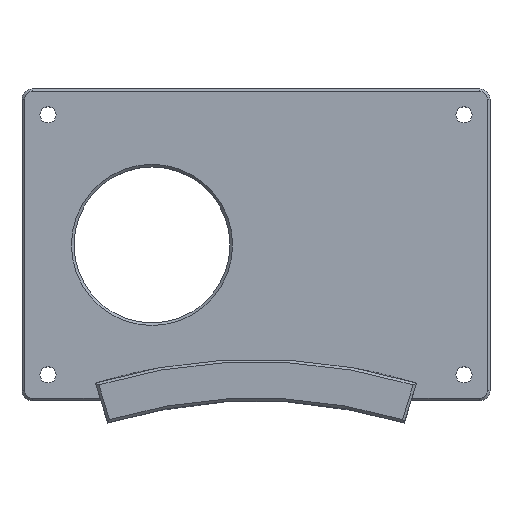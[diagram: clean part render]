
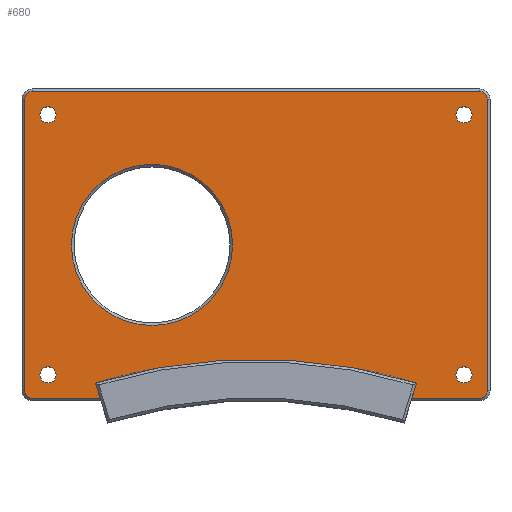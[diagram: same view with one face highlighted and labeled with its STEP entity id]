
A CAD part, top view. The second image highlights one B-rep face of the part: STEP entity #680.
In plain terms, the highlighted planar face has unit normal (0, 0, 1).
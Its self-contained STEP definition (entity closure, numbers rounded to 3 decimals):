
#44=VECTOR('',#1211,1.);
#45=VECTOR('',#1214,1.);
#46=VECTOR('',#1217,1.);
#47=VECTOR('',#1220,1.);
#48=VECTOR('',#1223,1.);
#49=VECTOR('',#1224,1.);
#50=VECTOR('',#1227,1.);
#90=LINE('',#804,#44);
#91=LINE('',#809,#45);
#92=LINE('',#813,#46);
#93=LINE('',#817,#47);
#94=LINE('',#821,#48);
#95=LINE('',#823,#49);
#96=LINE('',#827,#50);
#136=PLANE('',#725);
#170=VERTEX_POINT('',#799);
#172=VERTEX_POINT('',#805);
#173=VERTEX_POINT('',#806);
#174=VERTEX_POINT('',#808);
#175=VERTEX_POINT('',#810);
#176=VERTEX_POINT('',#812);
#177=VERTEX_POINT('',#814);
#178=VERTEX_POINT('',#816);
#179=VERTEX_POINT('',#818);
#180=VERTEX_POINT('',#820);
#181=VERTEX_POINT('',#822);
#182=VERTEX_POINT('',#824);
#183=VERTEX_POINT('',#826);
#184=VERTEX_POINT('',#829);
#185=VERTEX_POINT('',#831);
#186=VERTEX_POINT('',#833);
#187=VERTEX_POINT('',#835);
#234=CIRCLE('',#722,15.5);
#236=CIRCLE('',#726,1.5);
#237=CIRCLE('',#727,1.5);
#238=CIRCLE('',#728,1.5);
#239=CIRCLE('',#729,1.5);
#240=CIRCLE('',#730,105.5);
#241=CIRCLE('',#731,1.55);
#242=CIRCLE('',#732,1.55);
#243=CIRCLE('',#733,1.55);
#244=CIRCLE('',#734,1.55);
#268=EDGE_CURVE('',#170,#170,#234,.T.);
#270=EDGE_CURVE('',#172,#173,#90,.T.);
#271=EDGE_CURVE('',#174,#172,#236,.T.);
#272=EDGE_CURVE('',#175,#174,#91,.T.);
#273=EDGE_CURVE('',#176,#175,#237,.T.);
#274=EDGE_CURVE('',#177,#176,#92,.T.);
#275=EDGE_CURVE('',#178,#177,#238,.T.);
#276=EDGE_CURVE('',#179,#178,#93,.T.);
#277=EDGE_CURVE('',#180,#179,#239,.T.);
#278=EDGE_CURVE('',#181,#180,#94,.T.);
#279=EDGE_CURVE('',#181,#182,#95,.T.);
#280=EDGE_CURVE('',#182,#183,#240,.T.);
#281=EDGE_CURVE('',#183,#173,#96,.T.);
#282=EDGE_CURVE('',#184,#184,#241,.T.);
#283=EDGE_CURVE('',#185,#185,#242,.T.);
#284=EDGE_CURVE('',#186,#186,#243,.T.);
#285=EDGE_CURVE('',#187,#187,#244,.T.);
#362=ORIENTED_EDGE('',*,*,#270,.F.);
#363=ORIENTED_EDGE('',*,*,#271,.F.);
#364=ORIENTED_EDGE('',*,*,#272,.F.);
#365=ORIENTED_EDGE('',*,*,#273,.F.);
#366=ORIENTED_EDGE('',*,*,#274,.F.);
#367=ORIENTED_EDGE('',*,*,#275,.F.);
#368=ORIENTED_EDGE('',*,*,#276,.F.);
#369=ORIENTED_EDGE('',*,*,#277,.F.);
#370=ORIENTED_EDGE('',*,*,#278,.F.);
#371=ORIENTED_EDGE('',*,*,#279,.T.);
#372=ORIENTED_EDGE('',*,*,#280,.T.);
#373=ORIENTED_EDGE('',*,*,#281,.T.);
#374=ORIENTED_EDGE('',*,*,#282,.F.);
#375=ORIENTED_EDGE('',*,*,#283,.F.);
#376=ORIENTED_EDGE('',*,*,#284,.F.);
#377=ORIENTED_EDGE('',*,*,#285,.F.);
#378=ORIENTED_EDGE('',*,*,#268,.F.);
#544=EDGE_LOOP('',(#362,#363,#364,#365,#366,#367,#368,#369,#370,#371,#372,
#373));
#545=EDGE_LOOP('',(#374));
#546=EDGE_LOOP('',(#375));
#547=EDGE_LOOP('',(#376));
#548=EDGE_LOOP('',(#377));
#549=EDGE_LOOP('',(#378));
#613=FACE_BOUND('',#544,.T.);
#614=FACE_BOUND('',#545,.T.);
#615=FACE_BOUND('',#546,.T.);
#616=FACE_BOUND('',#547,.T.);
#617=FACE_BOUND('',#548,.T.);
#618=FACE_BOUND('',#549,.T.);
#680=ADVANCED_FACE('',(#613,#614,#615,#616,#617,#618),#136,.T.);
#722=AXIS2_PLACEMENT_3D('',#798,#1204,#1205);
#725=AXIS2_PLACEMENT_3D('',#803,#1210,$);
#726=AXIS2_PLACEMENT_3D('',#807,#1212,#1213);
#727=AXIS2_PLACEMENT_3D('',#811,#1215,#1216);
#728=AXIS2_PLACEMENT_3D('',#815,#1218,#1219);
#729=AXIS2_PLACEMENT_3D('',#819,#1221,#1222);
#730=AXIS2_PLACEMENT_3D('',#825,#1225,#1226);
#731=AXIS2_PLACEMENT_3D('',#828,#1228,#1229);
#732=AXIS2_PLACEMENT_3D('',#830,#1230,#1231);
#733=AXIS2_PLACEMENT_3D('',#832,#1232,#1233);
#734=AXIS2_PLACEMENT_3D('',#834,#1234,#1235);
#798=CARTESIAN_POINT('',(-20.,0.,6.));
#799=CARTESIAN_POINT('',(-4.5,0.,6.));
#803=CARTESIAN_POINT('',(0.,0.,6.));
#804=CARTESIAN_POINT('',(0.,-29.5,6.));
#805=CARTESIAN_POINT('',(43.,-29.5,6.));
#806=CARTESIAN_POINT('',(29.962,-29.5,6.));
#807=CARTESIAN_POINT('',(43.,-28.,6.));
#808=CARTESIAN_POINT('',(44.5,-28.,6.));
#809=CARTESIAN_POINT('',(44.5,0.,6.));
#810=CARTESIAN_POINT('',(44.5,28.,6.));
#811=CARTESIAN_POINT('',(43.,28.,6.));
#812=CARTESIAN_POINT('',(43.,29.5,6.));
#813=CARTESIAN_POINT('',(0.,29.5,6.));
#814=CARTESIAN_POINT('',(-43.,29.5,6.));
#815=CARTESIAN_POINT('',(-43.,28.,6.));
#816=CARTESIAN_POINT('',(-44.5,28.,6.));
#817=CARTESIAN_POINT('',(-44.5,0.,6.));
#818=CARTESIAN_POINT('',(-44.5,-28.,6.));
#819=CARTESIAN_POINT('',(-43.,-28.,6.));
#820=CARTESIAN_POINT('',(-43.,-29.5,6.));
#821=CARTESIAN_POINT('',(0.,-29.5,6.));
#822=CARTESIAN_POINT('',(-29.962,-29.5,6.));
#823=CARTESIAN_POINT('',(-32.662,-20.667,6.));
#824=CARTESIAN_POINT('',(-30.845,-26.61,6.));
#825=CARTESIAN_POINT('',(0.,-127.5,6.));
#826=CARTESIAN_POINT('',(30.845,-26.61,6.));
#827=CARTESIAN_POINT('',(32.662,-20.667,6.));
#828=CARTESIAN_POINT('',(40.,25.,6.));
#829=CARTESIAN_POINT('',(41.55,25.,6.));
#830=CARTESIAN_POINT('',(-40.,25.,6.));
#831=CARTESIAN_POINT('',(-38.45,25.,6.));
#832=CARTESIAN_POINT('',(40.,-25.,6.));
#833=CARTESIAN_POINT('',(41.55,-25.,6.));
#834=CARTESIAN_POINT('',(-40.,-25.,6.));
#835=CARTESIAN_POINT('',(-38.45,-25.,6.));
#1204=DIRECTION('',(0.,0.,1.));
#1205=DIRECTION('',(-15.5,0.,0.));
#1210=DIRECTION('',(0.,0.,1.));
#1211=DIRECTION('',(-1.,0.,0.));
#1212=DIRECTION('',(0.,0.,-1.));
#1213=DIRECTION('',(1.061,-1.061,0.));
#1214=DIRECTION('',(0.,-1.,0.));
#1215=DIRECTION('',(0.,0.,-1.));
#1216=DIRECTION('',(1.061,1.061,0.));
#1217=DIRECTION('',(1.,0.,0.));
#1218=DIRECTION('',(0.,0.,-1.));
#1219=DIRECTION('',(-1.061,1.061,0.));
#1220=DIRECTION('',(0.,1.,0.));
#1221=DIRECTION('',(0.,0.,-1.));
#1222=DIRECTION('',(-1.061,-1.061,0.));
#1223=DIRECTION('',(-1.,0.,0.));
#1224=DIRECTION('',(-0.292,0.956,0.));
#1225=DIRECTION('',(0.,0.,-1.));
#1226=DIRECTION('',(105.5,0.,0.));
#1227=DIRECTION('',(-0.292,-0.956,0.));
#1228=DIRECTION('',(0.,0.,1.));
#1229=DIRECTION('',(1.55,0.,0.));
#1230=DIRECTION('',(0.,0.,1.));
#1231=DIRECTION('',(1.55,0.,0.));
#1232=DIRECTION('',(0.,0.,1.));
#1233=DIRECTION('',(1.55,0.,0.));
#1234=DIRECTION('',(0.,0.,1.));
#1235=DIRECTION('',(1.55,0.,0.));
